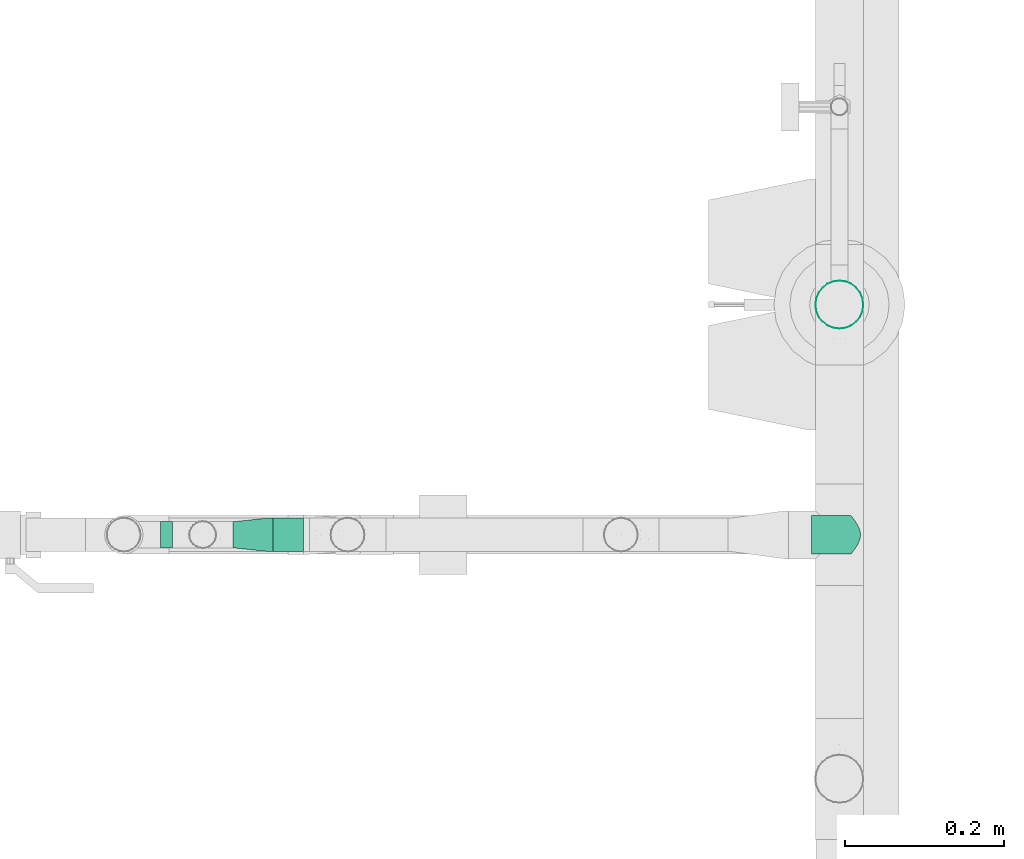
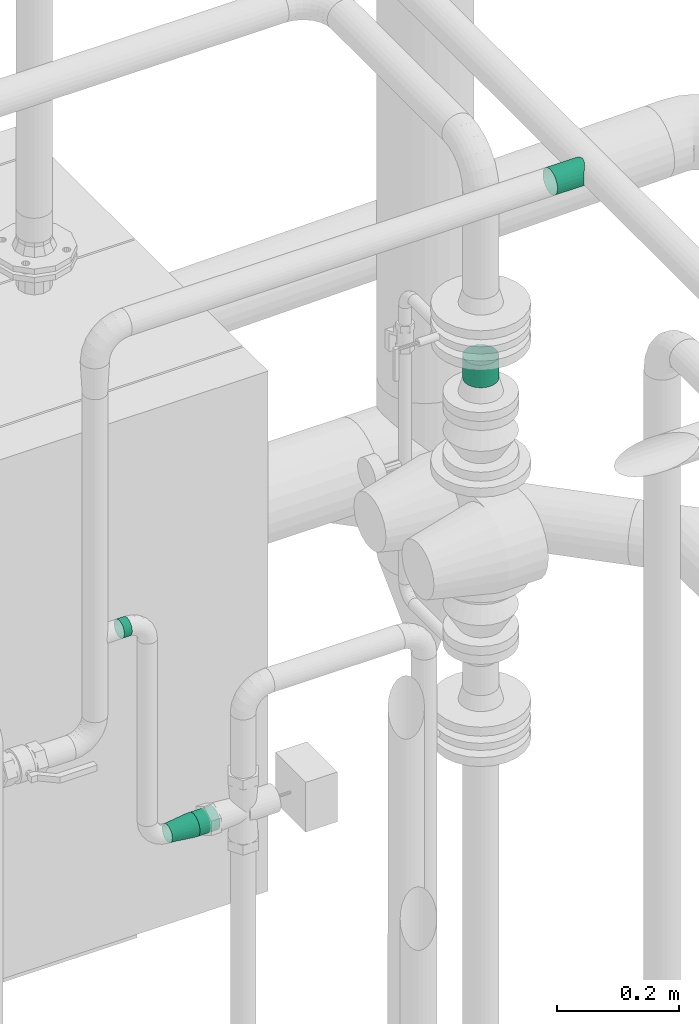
# One storey, part 351 of 374: 4 flow segments, 1 flow fitting.
"""IFC2X3 building model written with IfcOpenShell, lengths in metres."""

from ifc_helpers import new_model, si_unit, direction, origin, place, context, subcontext, project, spatial, open_shell, surface_model, source, transform, mapped, element, save


model = new_model("IFC2X3")

# Units and contexts
model_context = context("Model", 3, precision=1e-05, world=origin(), true_north=direction((-0.4480736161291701, 0.8939966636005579)))
body_context = subcontext(model_context, "Body", "Model", "MODEL_VIEW")
ifc_project = project(units=[si_unit("LENGTHUNIT", "METRE"), si_unit("AREAUNIT", "SQUARE_METRE"), si_unit("VOLUMEUNIT", "CUBIC_METRE"), si_unit("PLANEANGLEUNIT", "RADIAN"), si_unit("THERMODYNAMICTEMPERATUREUNIT", "KELVIN"), si_unit("MASSUNIT", "GRAM", prefix="KILO"), si_unit("TIMEUNIT", "SECOND")], contexts=[model_context])

# Site, building, storey
site_placement = place(None, origin())
site = spatial("IfcSite", under=ifc_project, at=site_placement, Name="Site 1", CompositionType="ELEMENT")
building_placement = place(site_placement, origin())
building = spatial("IfcBuilding", under=site, at=building_placement, Name="Undefined", CompositionType="ELEMENT")
storey_placement = place(building_placement, origin())
storey = spatial("IfcBuildingStorey", under=building, at=storey_placement, Name="Rez de chauss\x8ee", CompositionType="ELEMENT", Elevation=0.0)

# Flow fitting
shared_shape_1 = source(origin(), body_context, "Body", "SurfaceModel", [
    surface_model("IfcFaceBasedSurfaceModel", [(0.0, 0.0, 0.0), (0.004398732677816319, 0.0, -7.105427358e-15), (0.004398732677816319, 0.0041048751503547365, -7.105427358e-15), (0.0, 0.0041048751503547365, -7.105427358e-15), (0.008647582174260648, 0.0, -0.001138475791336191), (0.008647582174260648, 0.0041048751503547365, -0.001138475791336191), (0.012456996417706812, 0.0, -0.003337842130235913), (0.012456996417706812, 0.0041048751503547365, -0.003337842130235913), (0.015567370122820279, 0.0, -0.0064482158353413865), (0.015567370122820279, 0.0041048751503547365, -0.0064482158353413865), (0.01776673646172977, 0.0, -0.010257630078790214), (0.01776673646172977, 0.0041048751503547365, -0.010257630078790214), (0.018905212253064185, 0.0, -0.014506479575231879), (0.018905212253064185, 0.0041048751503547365, -0.014506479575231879), (0.01890521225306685, 0.0, -0.018905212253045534), (0.01890521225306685, 0.0041048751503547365, -0.018905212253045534), (0.017766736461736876, 0.0, -0.023154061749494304), (0.017766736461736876, 0.0041048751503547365, -0.023154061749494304), (0.015567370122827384, 0.0, -0.026963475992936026), (0.015567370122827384, 0.0041048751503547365, -0.026963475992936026), (0.012456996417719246, 0.0, -0.03007384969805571), (0.012456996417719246, 0.0041048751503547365, -0.03007384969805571), (0.008647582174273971, 0.0, -0.03227321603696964), (0.008647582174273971, 0.0041048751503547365, -0.03227321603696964), (0.00439873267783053, 0.0, -0.03341169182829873), (0.00439873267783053, 0.0041048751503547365, -0.03341169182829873), (0.0, -1.5099033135e-14, -0.03341169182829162), (1.5099033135e-14, 0.0041048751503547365, -0.033411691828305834), (-0.004248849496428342, 0.0, -0.03227321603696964), (-0.004248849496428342, 0.0041048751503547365, -0.03227321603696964), (-0.008058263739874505, 0.0, -0.03007384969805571), (-0.008058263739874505, 0.0041048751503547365, -0.03007384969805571), (-0.011168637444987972, 0.0, -0.026963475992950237), (-0.011168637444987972, 0.0041048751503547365, -0.026963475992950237), (-0.013368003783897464, 0.0, -0.02315406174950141), (-0.013368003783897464, 0.0041048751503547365, -0.02315406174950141), (-0.014506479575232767, 0.0, -0.01890521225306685), (-0.014506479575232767, 0.0041048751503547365, -0.01890521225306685), (-0.014506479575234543, 0.0, -0.01450647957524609), (-0.014506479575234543, 0.0041048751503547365, -0.01450647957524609), (-0.01336800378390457, 0.0, -0.01025763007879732), (-0.01336800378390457, 0.0041048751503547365, -0.01025763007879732), (-0.011168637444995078, 0.0, -0.006448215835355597), (-0.011168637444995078, 0.0041048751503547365, -0.006448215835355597), (-0.00805826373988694, 0.0, -0.0033378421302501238), (-0.00805826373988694, 0.0041048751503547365, -0.0033378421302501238), (-0.004248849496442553, 0.0, -0.0011384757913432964), (-0.004248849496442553, 0.0041048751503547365, -0.0011384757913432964), (0.02321799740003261, 0.04539565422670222, -0.01947300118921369), (0.02321799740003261, 0.04539565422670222, -0.013938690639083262), (0.02178561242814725, 0.04539565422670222, -0.024818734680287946), (0.019018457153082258, 0.04539565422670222, -0.029611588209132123), (0.015105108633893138, 0.04539565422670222, -0.03352493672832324), (0.010312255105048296, 0.04539565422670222, -0.03629209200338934), (0.004966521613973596, 0.04539565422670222, -0.03772447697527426), (-0.0005677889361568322, 0.04539565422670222, -0.03772447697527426), (-0.005913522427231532, 0.04539565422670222, -0.03629209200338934), (-0.010706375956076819, 0.04539565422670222, -0.03352493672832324), (-0.014619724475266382, 0.04539565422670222, -0.0296115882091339), (-0.017386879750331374, 0.04539565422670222, -0.024818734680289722), (-0.018819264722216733, 0.04539565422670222, -0.019473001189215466), (-0.018819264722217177, 0.04539565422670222, -0.013938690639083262), (-0.017386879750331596, 0.04539565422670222, -0.008592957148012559), (-0.014619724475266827, 0.04539565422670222, -0.0038001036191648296), (-0.010706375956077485, 0.04539565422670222, 0.00011324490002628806), (-0.0059135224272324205, 0.04539565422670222, 0.002880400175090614), (-0.0005677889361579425, 0.04539565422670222, 0.004312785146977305), (0.0049665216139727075, 0.04539565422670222, 0.0043127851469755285), (0.010312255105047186, 0.04539565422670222, 0.00288040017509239), (0.01510510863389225, 0.04539565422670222, 0.00011324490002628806), (0.019018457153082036, 0.04539565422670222, -0.003800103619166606), (0.021785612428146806, 0.04539565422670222, -0.00859295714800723), (0.0049665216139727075, 0.04999999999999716, 0.0043127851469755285), (-0.0005677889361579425, 0.04999999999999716, 0.004312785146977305), (0.010312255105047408, 0.04999999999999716, 0.002880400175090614), (0.01510510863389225, 0.04999999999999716, 0.00011324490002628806), (0.019018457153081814, 0.04999999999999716, -0.0038001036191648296), (0.021785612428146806, 0.04999999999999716, -0.00859295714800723), (0.02321799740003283, 0.04999999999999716, -0.013938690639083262), (0.02321799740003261, 0.04999999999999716, -0.01947300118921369), (0.02178561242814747, 0.04999999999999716, -0.024818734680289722), (0.019018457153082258, 0.04999999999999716, -0.029611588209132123), (0.015105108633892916, 0.04999999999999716, -0.033524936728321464), (0.010312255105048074, 0.04999999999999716, -0.036292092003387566), (0.004966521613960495, 0.050000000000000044, -0.037724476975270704), (-0.0005677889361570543, 0.04999999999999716, -0.03772447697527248), (-0.005913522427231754, 0.04999999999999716, -0.036292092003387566), (-0.010706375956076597, 0.04999999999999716, -0.03352493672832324), (-0.01461972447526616, 0.04999999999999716, -0.029611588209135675), (-0.017386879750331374, 0.04999999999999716, -0.024818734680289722), (-0.018819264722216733, 0.04999999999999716, -0.019473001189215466), (-0.018819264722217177, 0.04999999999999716, -0.013938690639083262), (-0.01738687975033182, 0.04999999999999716, -0.008592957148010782), (-0.014619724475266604, 0.04999999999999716, -0.0038001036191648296), (-0.010706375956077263, 0.04999999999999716, 0.00011324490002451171), (-0.0059135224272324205, 0.04999999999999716, 0.002880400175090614)], [open_shell([[[0, 1, 2, 3]], [[1, 4, 5, 2]], [[4, 6, 7, 5]], [[6, 8, 9, 7]], [[8, 10, 11, 9]], [[10, 12, 13, 11]], [[12, 14, 15, 13]], [[14, 16, 17, 15]], [[16, 18, 19, 17]], [[18, 20, 21, 19]], [[20, 22, 23, 21]], [[22, 24, 25, 23]], [[24, 26, 27, 25]], [[26, 28, 29, 27]], [[28, 30, 31, 29]], [[30, 32, 33, 31]], [[32, 34, 35, 33]], [[34, 36, 37, 35]], [[36, 38, 39, 37]], [[38, 40, 41, 39]], [[40, 42, 43, 41]], [[42, 44, 45, 43]], [[44, 46, 47, 45]], [[46, 0, 3, 47]], [[13, 15, 48, 49]], [[15, 17, 50, 48]], [[17, 19, 51, 50]], [[19, 21, 52, 51]], [[21, 23, 53, 52]], [[23, 25, 54, 53]], [[25, 27, 55, 54]], [[27, 29, 56, 55]], [[29, 31, 57, 56]], [[31, 33, 58, 57]], [[33, 35, 59, 58]], [[35, 37, 60, 59]], [[37, 39, 61, 60]], [[39, 41, 62, 61]], [[41, 43, 63, 62]], [[43, 45, 64, 63]], [[45, 47, 65, 64]], [[47, 3, 66, 65]], [[3, 2, 67, 66]], [[2, 5, 68, 67]], [[5, 7, 69, 68]], [[7, 9, 70, 69]], [[9, 11, 71, 70]], [[11, 13, 49, 71]], [[66, 67, 72, 73]], [[67, 68, 74, 72]], [[68, 69, 75, 74]], [[69, 70, 76, 75]], [[70, 71, 77, 76]], [[71, 49, 78, 77]], [[49, 48, 79, 78]], [[48, 50, 80, 79]], [[50, 51, 81, 80]], [[51, 52, 82, 81]], [[52, 53, 83, 82]], [[53, 54, 84, 83]], [[54, 55, 85, 84]], [[55, 56, 86, 85]], [[56, 57, 87, 86]], [[57, 58, 88, 87]], [[58, 59, 89, 88]], [[59, 60, 90, 89]], [[60, 61, 91, 90]], [[61, 62, 92, 91]], [[62, 63, 93, 92]], [[63, 64, 94, 93]], [[64, 65, 95, 94]], [[65, 66, 73, 95]]])]),
])
flow_fitting_placement = place(storey_placement, origin())
element("IfcFlowFitting", 1, at=flow_fitting_placement, inside=storey, Name="Réduction", ObjectType="Réduction", context=body_context, shape_type="MappedRepresentation", body=[
    mapped(shared_shape_1, transform((54.236299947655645, 11.72493442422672, 1.1335373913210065), x_axis=(0.0, -0.1305261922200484, 0.9914448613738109), y_axis=(1.0, 0.0, 0.0), z_axis=(0.0, 0.9914448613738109, 0.1305261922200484))),
])

# Flow segments
shared_shape_2 = source(origin(), body_context, "Body", "SurfaceModel", [
    surface_model("IfcFaceBasedSurfaceModel", [(0.0, 0.004398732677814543, 0.0), (0.0, 0.0, 0.0), (0.015235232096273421, 0.0, -1.776356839e-15), (0.015235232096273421, 0.004398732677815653, 0.0), (0.0, -0.004248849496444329, -0.00113847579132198), (0.015235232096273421, -0.004248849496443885, -0.0011384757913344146), (0.0, -0.008058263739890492, -0.003337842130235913), (0.015235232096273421, -0.00805826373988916, -0.003337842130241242), (0.0, -0.01116863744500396, -0.0064482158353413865), (0.015235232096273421, -0.01116863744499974, -0.006448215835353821), (0.0, -0.013368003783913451, -0.010257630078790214), (0.015235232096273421, -0.0133680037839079, -0.010257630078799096), (0.0, -0.014506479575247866, -0.014506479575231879), (0.015235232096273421, -0.014506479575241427, -0.014506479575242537), (0.0, -0.01450647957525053, -0.01890521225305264), (0.015235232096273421, -0.014506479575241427, -0.018905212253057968), (0.0, -0.013368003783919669, -0.023154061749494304), (0.015235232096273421, -0.0133680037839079, -0.02315406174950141), (0.0, -0.011168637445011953, -0.02696347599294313), (0.015235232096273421, -0.011168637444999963, -0.026963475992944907), (0.0, -0.008058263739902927, -0.03007384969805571), (0.015235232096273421, -0.008058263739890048, -0.030073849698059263), (0.0, -0.004248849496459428, -0.03227321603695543), (0.015235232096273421, -0.004248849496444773, -0.03227321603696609), (0.0, -1.5099033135e-14, -0.03341169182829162), (0.015235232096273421, -8.8817842e-16, -0.03341169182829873), (0.0, 0.00439873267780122, -0.03341169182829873), (0.015235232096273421, 0.004398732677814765, -0.03341169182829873), (0.0, 0.008647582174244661, -0.03227321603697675), (0.015235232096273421, 0.00864758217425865, -0.03227321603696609), (0.0, 0.012456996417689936, -0.030073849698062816), (0.015235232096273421, 0.012456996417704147, -0.03007384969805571), (0.0, 0.01556737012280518, -0.026963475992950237), (0.015235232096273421, 0.015567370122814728, -0.026963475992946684), (0.0, 0.017766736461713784, -0.023154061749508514), (0.015235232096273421, 0.017766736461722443, -0.023154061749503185), (0.0, 0.018905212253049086, -0.01890521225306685), (0.015235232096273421, 0.018905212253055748, -0.018905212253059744), (0.0, 0.018905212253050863, -0.01450647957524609), (0.015235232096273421, 0.01890521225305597, -0.014506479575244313), (0.0, 0.01776673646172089, -0.01025763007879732), (0.015235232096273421, 0.017766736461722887, -0.010257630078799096), (0.0, 0.015567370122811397, -0.006448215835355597), (0.015235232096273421, 0.01556737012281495, -0.006448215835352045), (0.0, 0.012456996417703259, -0.0033378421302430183), (0.015235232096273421, 0.012456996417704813, -0.003337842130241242), (0.0, 0.00864758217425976, -0.0011384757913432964), (0.015235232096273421, 0.008647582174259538, -0.0011384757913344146)], [open_shell([[[0, 1, 2, 3]], [[1, 4, 5, 2]], [[4, 6, 7, 5]], [[6, 8, 9, 7]], [[8, 10, 11, 9]], [[10, 12, 13, 11]], [[12, 14, 15, 13]], [[14, 16, 17, 15]], [[16, 18, 19, 17]], [[18, 20, 21, 19]], [[20, 22, 23, 21]], [[22, 24, 25, 23]], [[24, 26, 27, 25]], [[26, 28, 29, 27]], [[28, 30, 31, 29]], [[30, 32, 33, 31]], [[32, 34, 35, 33]], [[34, 36, 37, 35]], [[36, 38, 39, 37]], [[38, 40, 41, 39]], [[40, 42, 43, 41]], [[42, 44, 45, 43]], [[44, 46, 47, 45]], [[46, 0, 3, 47]]])]),
])
flow_segment_1_placement = place(storey_placement, origin())
element("IfcFlowSegment", 2, at=flow_segment_1_placement, inside=storey, Name="Tube acier d'après DIN 2448", ObjectType="Tube acier d'après DIN 2448", context=body_context, shape_type="MappedRepresentation", body=[
    mapped(shared_shape_2, transform((54.14506471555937, 11.724360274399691, 1.5803013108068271), x_axis=(1.0, 0.0, 0.0), y_axis=(0.0, 0.13052619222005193, -0.9914448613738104), z_axis=(0.0, 0.9914448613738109, 0.1305261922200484))),
])
shared_shape_3 = source(origin(), body_context, "Body", "SurfaceModel", [
    surface_model("IfcFaceBasedSurfaceModel", [(0.0, 0.005534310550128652, 0.0), (0.0, 0.0, 0.0), (0.03837151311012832, 0.0, 1.776356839e-15), (0.03837151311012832, 0.005534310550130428, 0.0), (0.0, -0.00534573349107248, -0.0014323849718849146), (0.03837151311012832, -0.005345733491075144, -0.0014323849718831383), (0.0, -0.010138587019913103, -0.004199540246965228), (0.03837151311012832, -0.010138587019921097, -0.004199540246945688), (0.0, -0.01405193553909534, -0.008112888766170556), (0.03837151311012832, -0.014051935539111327, -0.008112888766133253), (0.0, -0.016819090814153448, -0.012905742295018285), (0.03837151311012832, -0.016819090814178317, -0.01290574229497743), (0.0, -0.018251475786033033, -0.018251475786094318), (0.03837151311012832, -0.01825147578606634, -0.01825147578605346), (0.0, -0.0182514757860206, -0.02378578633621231), (0.03837151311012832, -0.018251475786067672, -0.023785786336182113), (0.0, -0.01681909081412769, -0.029131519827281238), (0.03837151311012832, -0.016819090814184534, -0.029131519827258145), (0.0, -0.014051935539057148, -0.03392437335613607), (0.03837151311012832, -0.014051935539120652, -0.03392437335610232), (0.0, -0.010138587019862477, -0.037837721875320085), (0.03837151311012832, -0.010138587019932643, -0.03783772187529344), (0.0, -0.005345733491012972, -0.040604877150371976), (0.03837151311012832, -0.005345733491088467, -0.04060487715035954), (0.0, 6.4837024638e-14, -0.042037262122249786), (0.03837151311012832, -1.5099033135e-14, -0.042037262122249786), (0.0, 0.005534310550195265, -0.04203726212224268), (0.03837151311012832, 0.005534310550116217, -0.042037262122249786), (0.0, 0.010880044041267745, -0.04060487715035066), (0.03837151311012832, 0.010880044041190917, -0.04060487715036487), (0.0, 0.01567289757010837, -0.03783772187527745), (0.03837151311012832, 0.01567289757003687, -0.03783772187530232), (0.0, 0.019586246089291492, -0.033924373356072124), (0.03837151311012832, 0.019586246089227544, -0.03392437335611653), (0.0, 0.0223534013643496, -0.029131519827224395), (0.03837151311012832, 0.022353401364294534, -0.02913151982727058), (0.0, 0.02378578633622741, -0.023785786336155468), (0.03837151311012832, 0.02378578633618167, -0.0237857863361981), (0.0, 0.023785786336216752, -0.01825147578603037), (0.03837151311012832, 0.02378578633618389, -0.018251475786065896), (0.0, 0.022353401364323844, -0.012905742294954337), (0.03837151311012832, 0.022353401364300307, -0.01290574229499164), (0.0, 0.019586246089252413, -0.008112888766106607), (0.03837151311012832, 0.019586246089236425, -0.008112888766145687), (0.0, 0.015672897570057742, -0.004199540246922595), (0.03837151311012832, 0.015672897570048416, -0.0041995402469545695), (0.0, 0.010880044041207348, -0.0014323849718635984), (0.03837151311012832, 0.010880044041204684, -0.0014323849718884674)], [open_shell([[[0, 1, 2, 3]], [[1, 4, 5, 2]], [[4, 6, 7, 5]], [[6, 8, 9, 7]], [[8, 10, 11, 9]], [[10, 12, 13, 11]], [[12, 14, 15, 13]], [[14, 16, 17, 15]], [[16, 18, 19, 17]], [[18, 20, 21, 19]], [[20, 22, 23, 21]], [[22, 24, 25, 23]], [[24, 26, 27, 25]], [[26, 28, 29, 27]], [[28, 30, 31, 29]], [[30, 32, 33, 31]], [[32, 34, 35, 33]], [[34, 36, 37, 35]], [[36, 38, 39, 37]], [[38, 40, 41, 39]], [[40, 42, 43, 41]], [[42, 44, 45, 43]], [[44, 46, 47, 45]], [[46, 0, 3, 47]]])]),
])
flow_segment_2_placement = place(storey_placement, origin())
element("IfcFlowSegment", 3, at=flow_segment_2_placement, inside=storey, Name="Tube acier d'après DIN 2448", ObjectType="Tube acier d'après DIN 2448", context=body_context, shape_type="MappedRepresentation", body=[
    mapped(shared_shape_3, transform((54.32467146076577, 11.687606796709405, 1.13902435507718), x_axis=(-1.0, 0.0, 0.0), y_axis=(9.56658874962e-13, -0.13052619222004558, -0.9914448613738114), z_axis=(7.266545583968e-12, -0.9914448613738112, 0.13052619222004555))),
])
shared_shape_4 = source(origin(), body_context, "Body", "SurfaceModel", [
    surface_model("IfcFaceBasedSurfaceModel", [(0.0006550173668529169, 0.006304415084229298, 0.0), (0.0, 0.0, 0.0), (0.05065501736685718, 4.4408921e-16, 1.776356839e-15), (0.05065501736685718, 0.006304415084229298, 0.0), (-0.0018686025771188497, -0.006089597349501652, -0.0016317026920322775), (0.05065501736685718, -0.006089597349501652, -0.0016317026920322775), (-0.004647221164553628, -0.011549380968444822, -0.004783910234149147), (0.05065501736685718, -0.011549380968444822, -0.004783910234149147), (-0.007778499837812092, -0.01600727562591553, -0.009241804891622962), (0.05065501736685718, -0.01600727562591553, -0.009241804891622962), (-0.010393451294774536, -0.0191594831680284, -0.014701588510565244), (0.05065501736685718, -0.0191594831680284, -0.014701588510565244), (-0.011445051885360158, -0.020791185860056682, -0.020791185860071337), (0.05065501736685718, -0.020791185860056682, -0.020791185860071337), (-0.010393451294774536, -0.020791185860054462, -0.027095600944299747), (0.05065501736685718, -0.020791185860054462, -0.027095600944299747), (-0.007778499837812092, -0.01915948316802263, -0.03318519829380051), (0.05065501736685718, -0.01915948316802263, -0.03318519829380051), (-0.004647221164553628, -0.01600727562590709, -0.03864498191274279), (0.05065501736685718, -0.01600727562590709, -0.03864498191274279), (-0.0018686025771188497, -0.011549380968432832, -0.04310287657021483), (0.05065501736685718, -0.011549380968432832, -0.04310287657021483), (0.0, -0.006089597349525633, -0.04625508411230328), (0.05065501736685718, -0.006089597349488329, -0.04625508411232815), (0.0006550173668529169, 1.5099033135e-14, -0.0478867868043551), (0.05065501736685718, 1.5099033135e-14, -0.0478867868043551), (0.0, 0.006304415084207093, -0.047886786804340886), (0.05065501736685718, 0.006304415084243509, -0.0478867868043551), (-0.0018686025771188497, 0.01239401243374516, -0.04625508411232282), (0.05065501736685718, 0.01239401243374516, -0.04625508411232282), (-0.004647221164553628, 0.01785379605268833, -0.04310287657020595), (0.05065501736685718, 0.01785379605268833, -0.04310287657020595), (-0.007778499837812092, 0.022311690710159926, -0.038644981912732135), (0.05065501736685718, 0.022311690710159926, -0.038644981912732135), (-0.010393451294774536, 0.02546389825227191, -0.03318519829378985), (0.05065501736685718, 0.02546389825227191, -0.03318519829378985), (-0.011445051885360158, 0.027095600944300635, -0.027095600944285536), (0.05065501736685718, 0.027095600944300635, -0.027095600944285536), (-0.010393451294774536, 0.02709560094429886, -0.02079118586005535), (0.05065501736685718, 0.02709560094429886, -0.02079118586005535), (-0.007778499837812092, 0.025463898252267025, -0.014701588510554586), (0.05065501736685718, 0.025463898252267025, -0.014701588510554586), (-0.004647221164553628, 0.0223116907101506, -0.009241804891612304), (0.05065501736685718, 0.0223116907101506, -0.009241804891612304), (-0.0018686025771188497, 0.017853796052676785, -0.004783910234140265), (0.05065501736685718, 0.017853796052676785, -0.004783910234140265), (0.0, 0.012394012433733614, -0.0016317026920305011), (0.05065501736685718, 0.012394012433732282, -0.001631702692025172)], [open_shell([[[0, 1, 2, 3]], [[1, 4, 5, 2]], [[4, 6, 7, 5]], [[6, 8, 9, 7]], [[8, 10, 11, 9]], [[10, 12, 13, 11]], [[12, 14, 15, 13]], [[14, 16, 17, 15]], [[16, 18, 19, 17]], [[18, 20, 21, 19]], [[20, 22, 23, 21]], [[22, 24, 25, 23]], [[24, 26, 27, 25]], [[26, 28, 29, 27]], [[28, 30, 31, 29]], [[30, 32, 33, 31]], [[32, 34, 35, 33]], [[34, 36, 37, 35]], [[36, 38, 39, 37]], [[38, 40, 41, 39]], [[40, 42, 43, 41]], [[42, 44, 45, 43]], [[44, 46, 47, 45]], [[46, 0, 3, 47]]])]),
])
flow_segment_3_placement = place(storey_placement, origin())
element("IfcFlowSegment", 4, at=flow_segment_3_placement, inside=storey, Name="Piquage sur circulaire 90°", ObjectType="Piquage sur circulaire 90°", context=body_context, shape_type="MappedRepresentation", body=[
    mapped(shared_shape_4, transform((55.01459390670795, 11.684757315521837, 2.1942504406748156), x_axis=(-1.0, 0.0, 0.0), y_axis=(9.56658874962e-13, -0.13052619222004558, -0.9914448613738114), z_axis=(7.266545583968e-12, -0.9914448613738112, 0.13052619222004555))),
])
shared_shape_5 = source(origin(), body_context, "Body", "SurfaceModel", [
    surface_model("IfcFaceBasedSurfaceModel", [(0.0, 0.007870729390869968, 7.105427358e-15), (0.0, 0.0, 0.0), (0.045294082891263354, 0.0, -3.552713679e-15), (0.045294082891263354, 0.007870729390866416, -3.552713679e-15), (0.0, -0.00760254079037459, -0.0020370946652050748), (0.045294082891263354, -0.007602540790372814, -0.0020370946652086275), (0.0, -0.01441879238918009, -0.00597245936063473), (0.045294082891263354, -0.014418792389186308, -0.005972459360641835), (0.0, -0.019984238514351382, -0.011537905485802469), (0.045294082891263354, -0.019984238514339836, -0.011537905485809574), (0.0, -0.023919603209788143, -0.018354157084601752), (0.045294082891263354, -0.023919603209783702, -0.018354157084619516), (0.0, -0.025956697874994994, -0.025956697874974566), (0.045294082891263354, -0.025956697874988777, -0.02595669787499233), (0.0, -0.025956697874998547, -0.03382742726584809), (0.045294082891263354, -0.025956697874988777, -0.033827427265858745), (0.0, -0.02391960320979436, -0.041429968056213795), (0.045294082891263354, -0.023919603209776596, -0.04142996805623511), (0.0, -0.019984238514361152, -0.04824621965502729), (0.045294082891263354, -0.01998423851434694, -0.04824621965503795), (0.0, -0.01441879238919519, -0.05381166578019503), (0.045294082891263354, -0.014418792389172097, -0.053811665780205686), (0.0, -0.007602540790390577, -0.05774703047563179), (0.045294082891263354, -0.007602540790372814, -0.057747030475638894), (0.0, -1.7763568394e-14, -0.05978412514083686), (0.045294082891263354, 7.105427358e-15, -0.059784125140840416), (0.0, 0.007870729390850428, -0.05978412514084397), (0.045294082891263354, 0.007870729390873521, -0.05978412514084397), (0.0, 0.015473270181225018, -0.057747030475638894), (0.045294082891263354, 0.01547327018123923, -0.057747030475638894), (0.0, 0.022289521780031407, -0.05381166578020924), (0.045294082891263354, 0.022289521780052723, -0.053811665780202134), (0.0, 0.027854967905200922, -0.048246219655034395), (0.045294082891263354, 0.027854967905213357, -0.048246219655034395), (0.0, 0.031790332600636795, -0.04142996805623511), (0.045294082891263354, 0.03179033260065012, -0.041429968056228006), (0.0, 0.033827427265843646, -0.0338274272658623), (0.045294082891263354, 0.03382742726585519, -0.03382742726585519), (0.0, 0.0338274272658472, -0.025956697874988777), (0.045294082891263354, 0.03382742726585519, -0.025956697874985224), (0.0, 0.0317903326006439, -0.01835415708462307), (0.045294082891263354, 0.03179033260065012, -0.018354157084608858), (0.0, 0.02785496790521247, -0.01153790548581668), (0.045294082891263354, 0.027854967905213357, -0.011537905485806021), (0.0, 0.022289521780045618, -0.005972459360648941), (0.045294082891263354, 0.022289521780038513, -0.005972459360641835), (0.0, 0.015473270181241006, -0.0020370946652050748), (0.045294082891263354, 0.015473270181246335, -0.0020370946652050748)], [open_shell([[[0, 1, 2, 3]], [[1, 4, 5, 2]], [[4, 6, 7, 5]], [[6, 8, 9, 7]], [[8, 10, 11, 9]], [[10, 12, 13, 11]], [[12, 14, 15, 13]], [[14, 16, 17, 15]], [[16, 18, 19, 17]], [[18, 20, 21, 19]], [[20, 22, 23, 21]], [[22, 24, 25, 23]], [[24, 26, 27, 25]], [[26, 28, 29, 27]], [[28, 30, 31, 29]], [[30, 32, 33, 31]], [[32, 34, 35, 33]], [[34, 36, 37, 35]], [[36, 38, 39, 37]], [[38, 40, 41, 39]], [[40, 42, 43, 41]], [[42, 44, 45, 43]], [[44, 46, 47, 45]], [[46, 0, 3, 47]]])]),
])
flow_segment_4_placement = place(storey_placement, origin())
element("IfcFlowSegment", 5, at=flow_segment_4_placement, inside=storey, Name="Tube acier d'après DIN 2448", ObjectType="Tube acier d'après DIN 2448", context=body_context, shape_type="MappedRepresentation", body=[
    mapped(shared_shape_5, transform((54.9915258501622, 11.968553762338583, 1.6514691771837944), x_axis=(0.0, 0.0, -1.0), y_axis=(0.9914448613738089, -0.13052619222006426, 0.0), z_axis=(-0.13052619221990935, -0.9914448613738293, 0.0))),
])

save(model, "model.ifc")
